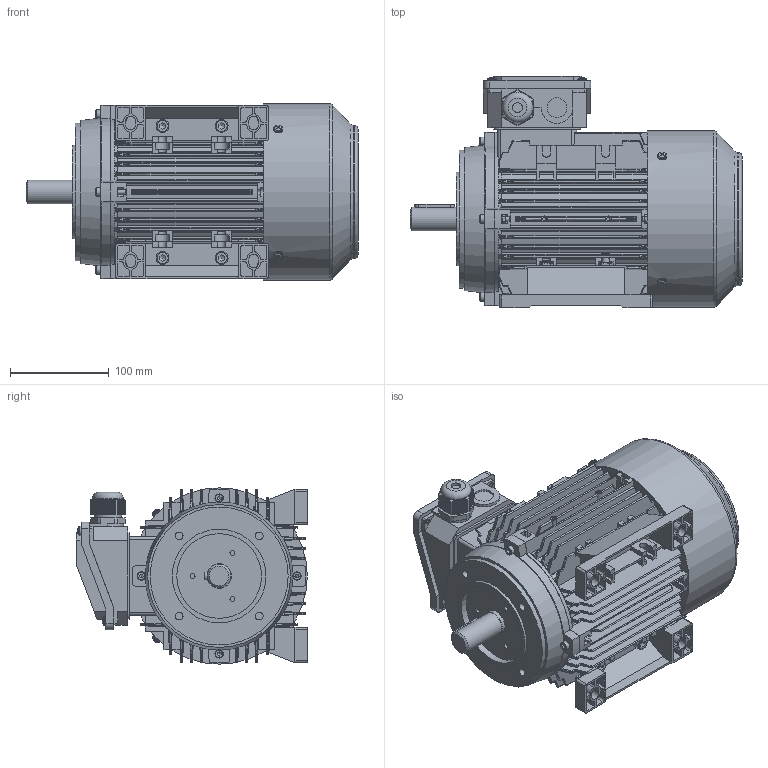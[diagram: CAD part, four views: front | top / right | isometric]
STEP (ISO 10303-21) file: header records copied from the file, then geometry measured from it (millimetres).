
FILE_DESCRIPTION(/* description */ ('02-IP55-Aluminium-IE1_IE2_IE3-90L-B34-top'),/* implementation_level */ '2;1');
FILE_NAME(/* name */ 'H:\BESTANDEN\121 - OMEC\1603 - TA serie\1603 - Gereed\02-IP55-Aluminium-IE1_IE2_IE3-90L-B34-top.stp',/* time_stamp */ '2016-06-06T10:34:14+02:00',/* author */ ('Freek'),/* organization */ (''),/* preprocessor_version */ 'ST-DEVELOPER v15.6',/* originating_system */ 'Autodesk Inventor 2015',/* authorisation */ '');
FILE_SCHEMA (('AUTOMOTIVE_DESIGN { 1 0 10303 214 3 1 1 }'));
Products named in the file (1): 1603-121
Bounding box: 337 x 235.1 x 179 mm (x, y, z)
Volume: 6375759.9 mm3; surface area: 621873.3 mm2
Topology: 3 solids, 13 shells, 3100 faces, 8235 edges, 5260 vertices
Faces by surface type: plane 1581, cylinder 699, bspline 347, cone 247, torus 152, sphere 74
Full cylindrical faces by diameter (mm): 3 x4, 4 x1, 4.567 x5, 5 x23, 5.5 x4, 5.827 x1, 6 x8, 8 x12, 8.5 x7, 10 x2, 13 x3, 20 x1, 23 x1, 24 x1, 25 x1, 28 x1, 31 x1, 43.8 x1, 86 x1, 95 x1, 135 x1, 140 x1, 179 x1
Entity records: 109742 total; most frequent: CARTESIAN_POINT 33645, ORIENTED_EDGE 16020, DIRECTION 13995, EDGE_CURVE 8002, VERTEX_POINT 5198, AXIS2_PLACEMENT_3D 4864, LINE 4267, VECTOR 4267
